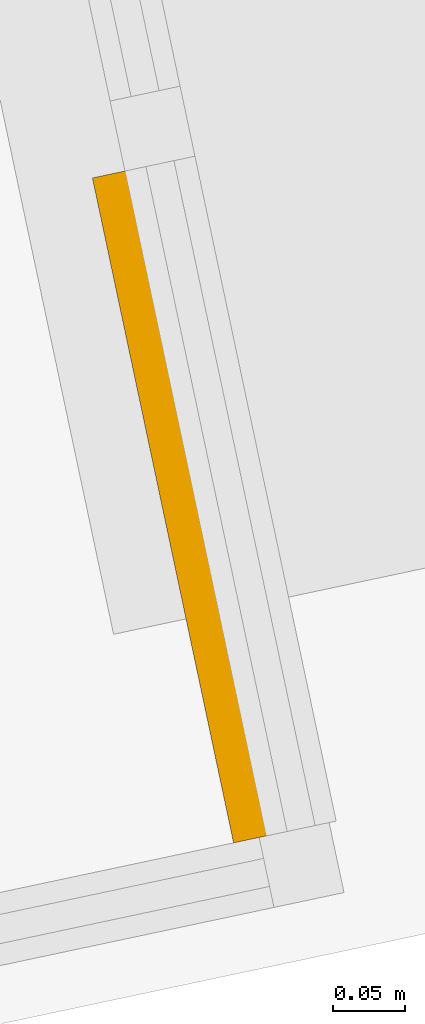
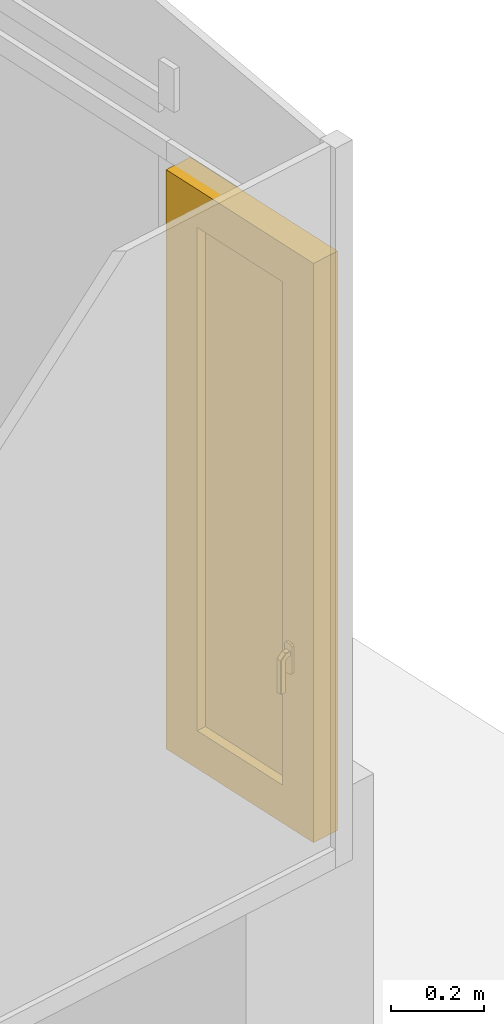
# One storey, part 11 of 17: 1 window, 1 element without a shape of its own.
"""IFC2X3 building model written with IfcOpenShell, lengths in centimetres."""

from ifc_helpers import new_model, entity, si_unit, converted_unit, derived_unit, direction, frame, origin, place, context, subcontext, project, spatial, faceted_brep, source, transform, mapped, material, material_list, type_object, type_shapes, element, aggregate, save


model = new_model("IFC2X3")

# Units and contexts
model_context = context("Model", 3, precision=0.001, world=origin(), true_north=direction((6.12303176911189e-17, 1.0)))
body_context = subcontext(model_context, "Body", "Model", "MODEL_VIEW")
ifc_project = project(units=[si_unit("LENGTHUNIT", "METRE", prefix="CENTI"), si_unit("AREAUNIT", "SQUARE_METRE"), si_unit("VOLUMEUNIT", "CUBIC_METRE"), converted_unit("PLANEANGLEUNIT", "DEGREE", entity("IfcRatioMeasure", 0.0174532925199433), si_unit("PLANEANGLEUNIT", "RADIAN"), dimensions=[0, 0, 0, 0, 0, 0, 0]), si_unit("MASSUNIT", "GRAM", prefix="KILO"), derived_unit("MASSDENSITYUNIT", [(si_unit("MASSUNIT", "GRAM", prefix="KILO"), 1), (si_unit("LENGTHUNIT", "METRE"), -3)]), derived_unit("IONCONCENTRATIONUNIT", [(si_unit("MASSUNIT", "GRAM", prefix="KILO"), 1), (si_unit("LENGTHUNIT", "METRE"), -3)]), derived_unit("MOMENTOFINERTIAUNIT", [(si_unit("LENGTHUNIT", "METRE"), 4)]), si_unit("TIMEUNIT", "SECOND"), si_unit("FREQUENCYUNIT", "HERTZ"), si_unit("THERMODYNAMICTEMPERATUREUNIT", "DEGREE_CELSIUS"), derived_unit("THERMALTRANSMITTANCEUNIT", [(si_unit("MASSUNIT", "GRAM", prefix="KILO"), 1), (si_unit("THERMODYNAMICTEMPERATUREUNIT", "KELVIN"), -1), (si_unit("TIMEUNIT", "SECOND"), -3)]), derived_unit("THERMALCONDUCTANCEUNIT", [(si_unit("MASSUNIT", "GRAM", prefix="KILO"), 1), (si_unit("THERMODYNAMICTEMPERATUREUNIT", "KELVIN"), -1), (si_unit("TIMEUNIT", "SECOND"), -3), (si_unit("LENGTHUNIT", "METRE"), 1)]), derived_unit("VOLUMETRICFLOWRATEUNIT", [(si_unit("LENGTHUNIT", "METRE"), 3), (si_unit("TIMEUNIT", "SECOND"), -1)]), derived_unit("MASSFLOWRATEUNIT", [(si_unit("MASSUNIT", "GRAM", prefix="KILO"), 1), (si_unit("TIMEUNIT", "SECOND"), -1)]), derived_unit("ROTATIONALFREQUENCYUNIT", [(si_unit("TIMEUNIT", "SECOND"), -1)]), si_unit("ELECTRICCURRENTUNIT", "AMPERE"), si_unit("ELECTRICVOLTAGEUNIT", "VOLT"), si_unit("POWERUNIT", "WATT"), si_unit("FORCEUNIT", "NEWTON", prefix="KILO"), si_unit("ILLUMINANCEUNIT", "LUX"), si_unit("LUMINOUSFLUXUNIT", "LUMEN"), si_unit("LUMINOUSINTENSITYUNIT", "CANDELA"), derived_unit("USERDEFINED", [(si_unit("MASSUNIT", "GRAM", prefix="KILO"), -1), (si_unit("LENGTHUNIT", "METRE"), -2), (si_unit("TIMEUNIT", "SECOND"), 3), (si_unit("LUMINOUSFLUXUNIT", "LUMEN"), 1)]), derived_unit("USERDEFINED", [(si_unit("MASSUNIT", "GRAM", prefix="KILO"), 1), (si_unit("TIMEUNIT", "SECOND"), -3), (si_unit("LENGTHUNIT", "METRE"), 3), (si_unit("ELECTRICCURRENTUNIT", "AMPERE"), -2)]), derived_unit("SOUNDPOWERUNIT", [(si_unit("MASSUNIT", "GRAM", prefix="KILO"), 1), (si_unit("TIMEUNIT", "SECOND"), -3), (si_unit("LENGTHUNIT", "METRE"), 2)]), derived_unit("SOUNDPRESSUREUNIT", [(si_unit("MASSUNIT", "GRAM", prefix="KILO"), 1), (si_unit("LENGTHUNIT", "METRE"), -1), (si_unit("TIMEUNIT", "SECOND"), -2)]), derived_unit("LINEARVELOCITYUNIT", [(si_unit("LENGTHUNIT", "METRE"), 1), (si_unit("TIMEUNIT", "SECOND"), -1)]), si_unit("PRESSUREUNIT", "PASCAL"), derived_unit("USERDEFINED", [(si_unit("MASSUNIT", "GRAM", prefix="KILO"), 1), (si_unit("LENGTHUNIT", "METRE"), -2), (si_unit("TIMEUNIT", "SECOND"), -2)]), derived_unit("LINEARFORCEUNIT", [(si_unit("MASSUNIT", "GRAM", prefix="KILO"), 1), (si_unit("TIMEUNIT", "SECOND"), -2)]), derived_unit("PLANARFORCEUNIT", [(si_unit("MASSUNIT", "GRAM", prefix="KILO"), 1), (si_unit("LENGTHUNIT", "METRE"), -1), (si_unit("TIMEUNIT", "SECOND"), -2)]), derived_unit("SPECIFICHEATCAPACITYUNIT", [(si_unit("THERMODYNAMICTEMPERATUREUNIT", "KELVIN"), -1), (si_unit("LENGTHUNIT", "METRE"), 2), (si_unit("TIMEUNIT", "SECOND"), -2)]), derived_unit("HEATINGVALUEUNIT", [(si_unit("LENGTHUNIT", "METRE"), 2), (si_unit("TIMEUNIT", "SECOND"), -2)]), derived_unit("VAPORPERMEABILITYUNIT", [(si_unit("LENGTHUNIT", "METRE"), -1), (si_unit("TIMEUNIT", "SECOND"), 1)]), derived_unit("DYNAMICVISCOSITYUNIT", [(si_unit("MASSUNIT", "GRAM", prefix="KILO"), 1), (si_unit("TIMEUNIT", "SECOND"), -1), (si_unit("LENGTHUNIT", "METRE"), -1)]), derived_unit("THERMALEXPANSIONCOEFFICIENTUNIT", [(si_unit("THERMODYNAMICTEMPERATUREUNIT", "KELVIN"), -1)]), derived_unit("MODULUSOFELASTICITYUNIT", [(si_unit("MASSUNIT", "GRAM", prefix="KILO"), 1), (si_unit("LENGTHUNIT", "METRE"), -1), (si_unit("TIMEUNIT", "SECOND"), -2)]), derived_unit("ISOTHERMALMOISTURECAPACITYUNIT", [(si_unit("LENGTHUNIT", "METRE"), 3), (si_unit("MASSUNIT", "GRAM", prefix="KILO"), -1)]), derived_unit("MOISTUREDIFFUSIVITYUNIT", [(si_unit("TIMEUNIT", "SECOND"), -1), (si_unit("LENGTHUNIT", "METRE"), 2)])], contexts=[model_context])

# Site, building, storey
site_placement = place(None, frame((14083.8920177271, -6853.25409548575, 6900.0), z_axis=(0.0, 0.0, 1.0), x_axis=(0.978188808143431, 0.207717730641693, 0.0)))
site = spatial("IfcSite", under=ifc_project, at=site_placement, Name="Surface", CompositionType="ELEMENT")
building_placement = place(site_placement, origin())
building = spatial("IfcBuilding", under=site, at=building_placement, CompositionType="ELEMENT")
storey_placement = place(building_placement, origin())
storey = spatial("IfcBuildingStorey", under=building, at=storey_placement, Name="_Rez de chaussée Séjour", CompositionType="ELEMENT", Elevation=2.07727662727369e-10)

# Curtain wall, window
curtain_wall_type = type_object("IfcCurtainWallType", Name="Mur-rideau:*Mur-rideau", PredefinedType="NOTDEFINED")
curtain_wall_placement = place(storey_placement, origin())
curtain_wall = element("IfcCurtainWall", 1, at=curtain_wall_placement, inside=storey, type_object=curtain_wall_type, Name="Mur-rideau:*Mur-rideau", ObjectType="Mur-rideau:*Mur-rideau")
ifc_material_1 = material(Name="PVC - Blanc")
ifc_material_2 = material(Name="Fenêtre - Vitrage")
ifc_material_3 = material(Name="__ METAL_gris foncé (menuiseries acier)______________________TEST")
ifc_material_list = material_list([ifc_material_1, ifc_material_2, ifc_material_3])
window_style = type_object("IfcWindowStyle", Name="MR 1 Vantail Droit:MR 1 Vantail Droit", ConstructionType="NOTDEFINED", OperationType="NOTDEFINED", ParameterTakesPrecedence=False, Sizeable=False, material=ifc_material_list)
shared_shape = source(origin(), body_context, "Body", "Brep", [
    faceted_brep([(16.8146009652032, -5.42408568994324, 47.2033929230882), (16.9533929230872, -5.42408568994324, 47.0646009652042), (16.9533929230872, -5.42408568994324, 45.9332301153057), (16.8167698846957, -5.42408568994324, 45.7966070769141), (15.6832301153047, -5.42408568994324, 45.7966070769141), (15.5466070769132, -5.42408568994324, 45.9332301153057), (15.5466070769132, -5.42408568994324, 47.0646009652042), (15.6853990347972, -5.42408568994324, 47.2033929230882), (16.8146009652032, -6.71544057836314, 47.2033929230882), (16.9533929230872, -6.65795106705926, 47.0646009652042), (16.9533929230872, -7.98868665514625, 45.7338653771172), (16.9533929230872, -7.98868665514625, 37.0), (16.9533929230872, -6.85731580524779, 37.0), (16.9533929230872, -6.85731580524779, 45.2652362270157), (16.9533929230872, -6.18932191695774, 45.9332301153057), (16.8167698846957, -6.13273080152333, 45.7966070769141), (15.6832301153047, -6.13273080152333, 45.7966070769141), (15.5466070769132, -6.18932191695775, 45.9332301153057), (15.5466070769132, -6.8573158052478, 45.2652362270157), (15.5466070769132, -6.8573158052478, 37.0), (15.5466070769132, -7.98868665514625, 37.0), (15.5466070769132, -7.98868665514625, 45.7338653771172), (15.5466070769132, -6.65795106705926, 47.0646009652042), (15.6853990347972, -6.71544057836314, 47.2033929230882), (16.8146009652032, -8.12747861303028, 45.7913548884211), (16.8167698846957, -6.72069276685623, 45.2086451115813), (15.6832301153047, -6.72069276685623, 45.2086451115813), (15.6853990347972, -8.12747861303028, 45.7913548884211), (16.8146009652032, -8.12747861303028, 37.0), (15.6853990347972, -8.12747861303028, 37.0), (15.6832301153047, -6.72069276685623, 37.0), (16.8167698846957, -6.72069276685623, 37.0)], [[[0, 1, 2, 3, 4, 5, 6, 7]], [[1, 0, 8, 9]], [[2, 1, 9, 10, 11, 12, 13, 14]], [[3, 2, 14, 15]], [[4, 3, 15, 16]], [[5, 4, 16, 17]], [[6, 5, 17, 18, 19, 20, 21, 22]], [[7, 6, 22, 23]], [[0, 7, 23, 8]], [[9, 8, 24, 10]], [[15, 14, 13, 25]], [[16, 15, 25, 26]], [[17, 16, 26, 18]], [[23, 22, 21, 27]], [[8, 23, 27, 24]], [[28, 29, 20, 19, 30, 31, 12, 11]], [[10, 24, 28, 11]], [[25, 13, 12, 31]], [[26, 25, 31, 30]], [[18, 26, 30, 19]], [[27, 21, 20, 29]], [[24, 27, 29, 28]]]),
    faceted_brep([(16.9500000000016, -4.82408568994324, 49.0), (17.4500000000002, -4.82408568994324, 48.500000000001), (17.4500000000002, -4.82408568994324, 41.4999999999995), (16.9500000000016, -4.82408568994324, 41.0), (15.5499999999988, -4.82408568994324, 41.0), (15.0500000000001, -4.82408568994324, 41.4999999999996), (15.0500000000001, -4.82408568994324, 48.500000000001), (15.5500000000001, -4.82408568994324, 49.0), (16.9500000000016, -5.42408568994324, 49.0), (15.5500000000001, -5.42408568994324, 49.0), (15.0500000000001, -5.42408568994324, 48.500000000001), (15.0500000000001, -5.42408568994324, 41.4999999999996), (15.5499999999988, -5.42408568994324, 41.0), (16.9500000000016, -5.42408568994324, 41.0), (17.4500000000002, -5.42408568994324, 41.4999999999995), (17.4500000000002, -5.42408568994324, 48.500000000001)], [[[0, 1, 2, 3, 4, 5, 6, 7]], [[8, 9, 10, 11, 12, 13, 14, 15]], [[1, 0, 8, 15]], [[2, 1, 15, 14]], [[3, 2, 14, 13]], [[4, 3, 13, 12]], [[5, 4, 12, 11]], [[6, 5, 11, 10]], [[7, 6, 10, 9]], [[0, 7, 9, 8]]]),
    faceted_brep([(-13.7500000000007, -2.42408568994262, 142.5), (-13.7500000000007, -2.42408568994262, 10.0), (13.7500000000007, -2.42408568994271, 10.0), (13.7500000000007, -2.42408568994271, 142.5), (-13.7500000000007, -1.22408568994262, 142.5), (13.7500000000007, -1.22408568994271, 142.5), (13.7500000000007, -1.22408568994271, 10.0), (-13.7500000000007, -1.22408568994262, 10.0)], [[[0, 1, 2, 3]], [[4, 5, 6, 7]], [[3, 5, 4, 0]], [[2, 6, 5, 3]], [[1, 7, 6, 2]], [[0, 4, 7, 1]]]),
    faceted_brep([(18.7500000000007, 1.17591431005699, 147.5), (-18.7500000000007, 1.17591431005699, 147.5), (-18.7500000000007, -4.82408568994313, 147.5), (18.7500000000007, -4.82408568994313, 147.5), (13.7500000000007, -4.82408568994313, 142.5), (-13.7500000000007, -4.82408568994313, 142.5), (-13.7500000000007, 1.17591431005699, 142.5), (13.7500000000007, 1.17591431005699, 142.5), (-18.7500000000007, 1.17591431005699, 5.0), (-18.7500000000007, -4.82408568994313, 5.0), (-13.7500000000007, -4.82408568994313, 10.0), (-13.7500000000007, 1.17591431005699, 10.0), (18.7500000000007, 1.17591431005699, 5.0), (18.7500000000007, -4.82408568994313, 5.0), (13.7500000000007, -4.82408568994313, 10.0), (13.7500000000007, 1.17591431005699, 10.0)], [[[0, 1, 2, 3]], [[4, 5, 6, 7]], [[1, 8, 9, 2]], [[5, 10, 11, 6]], [[8, 12, 13, 9]], [[10, 14, 15, 11]], [[3, 2, 9, 13], [5, 4, 14, 10]], [[12, 0, 3, 13]], [[1, 0, 12, 8], [7, 6, 11, 15]], [[14, 4, 7, 15]]]),
    faceted_brep([(17.7500000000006, 1.17591431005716, 146.5), (-17.7500000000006, 1.17591431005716, 146.5), (-17.7500000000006, 2.17591431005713, 146.5), (17.7500000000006, 2.17591431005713, 146.5), (18.7500000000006, -4.82408568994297, 147.5), (-18.7500000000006, -4.82408568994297, 147.5), (-18.7500000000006, 1.17591431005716, 147.5), (18.7500000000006, 1.17591431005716, 147.5), (23.7500000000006, 2.17591431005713, 152.5), (-23.7500000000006, 2.17591431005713, 152.5), (-23.7500000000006, -4.82408568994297, 152.5), (23.7500000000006, -4.82408568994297, 152.5), (-17.7500000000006, 1.17591431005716, 6.0), (-17.7500000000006, 2.17591431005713, 6.0), (-18.7500000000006, -4.82408568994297, 5.0), (-18.7500000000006, 1.17591431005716, 5.0), (-23.7500000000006, 2.17591431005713, 0.0), (-23.7500000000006, -4.82408568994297, 0.0), (17.7500000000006, 1.17591431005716, 6.0), (17.7500000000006, 2.17591431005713, 6.0), (18.7500000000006, -4.82408568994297, 5.0), (18.7500000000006, 1.17591431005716, 5.0), (23.7500000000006, 2.17591431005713, 0.0), (23.7500000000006, -4.82408568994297, 0.0)], [[[0, 1, 2, 3]], [[4, 5, 6, 7]], [[8, 9, 10, 11]], [[1, 12, 13, 2]], [[5, 14, 15, 6]], [[9, 16, 17, 10]], [[12, 18, 19, 13]], [[14, 20, 21, 15]], [[16, 22, 23, 17]], [[3, 2, 13, 19], [9, 8, 22, 16]], [[18, 0, 3, 19]], [[1, 0, 18, 12], [7, 6, 15, 21]], [[20, 4, 7, 21]], [[5, 4, 20, 14], [11, 10, 17, 23]], [[22, 8, 11, 23]]], outer=[[True], [True], [True], [True], [True], [True], [True], [True], [True], [False, True], [True], [False, True], [True], [False, True], [True]]),
])
type_shapes(window_style, [shared_shape])
window_placement = place(curtain_wall_placement, frame((-5977.81321908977, 14835.4173447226, 115.0), z_axis=(0.0, 0.0, 1.0), x_axis=(0.0, -1.0, 0.0)))
window = element("IfcWindow", 2, at=window_placement, type_object=window_style, material=ifc_material_list, Name="MR 1 Vantail Droit:MR 1 Vantail Droit", ObjectType="MR 1 Vantail Droit:MR 1 Vantail Droit", OverallHeight=152.5, OverallWidth=47.5000000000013, context=body_context, shape_type="MappedRepresentation", body=[
    mapped(shared_shape, transform((0.0, 0.0, 0.0), scale=1.0)),
])
aggregate(curtain_wall, [window])

save(model, "model.ifc")
